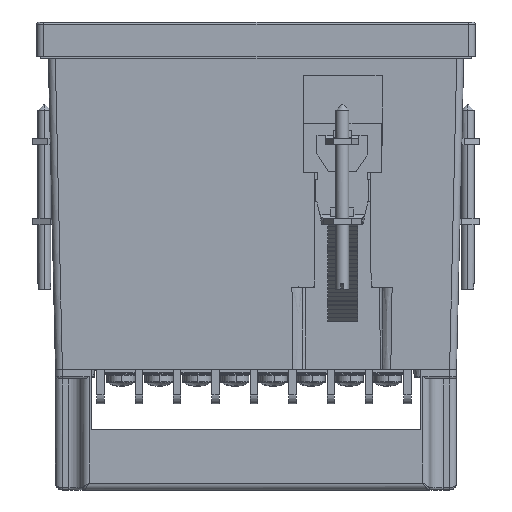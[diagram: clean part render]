
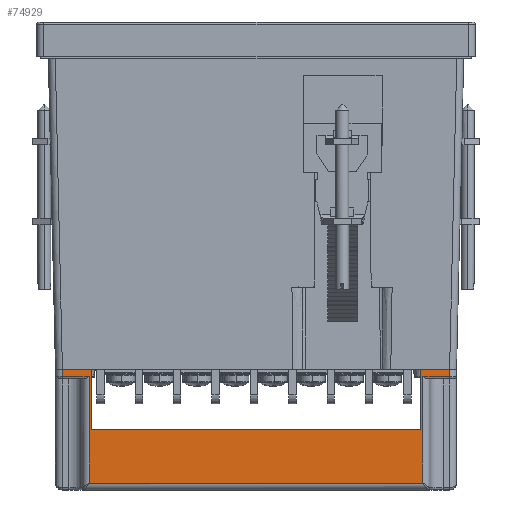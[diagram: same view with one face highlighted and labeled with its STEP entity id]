
A CAD part, front view. The second image highlights one B-rep face of the part: STEP entity #74929.
In plain terms, the highlighted planar face has unit normal (0, -1, 0).
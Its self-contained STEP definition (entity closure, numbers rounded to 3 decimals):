
#356 = DIRECTION ( 'NONE',  ( 0., -1., 0. ) ) ;
#2693 = ORIENTED_EDGE ( 'NONE', *, *, #27141, .F. ) ;
#3799 = EDGE_CURVE ( 'NONE', #26915, #15329, #100359, .T. ) ;
#4944 = ORIENTED_EDGE ( 'NONE', *, *, #7288, .F. ) ;
#6378 = CARTESIAN_POINT ( 'NONE',  ( 36.154, -43.45, -2.14 ) ) ;
#6875 = DIRECTION ( 'NONE',  ( 0., 0., 1. ) ) ;
#7288 = EDGE_CURVE ( 'NONE', #92286, #85175, #49611, .T. ) ;
#10125 = VECTOR ( 'NONE', #6875, 1000. ) ;
#11296 = CARTESIAN_POINT ( 'NONE',  ( 35.75, -43.45, 0. ) ) ;
#11634 = LINE ( 'NONE', #90732, #43741 ) ;
#12691 = VECTOR ( 'NONE', #93691, 1000. ) ;
#14238 = CARTESIAN_POINT ( 'NONE',  ( 41.95, -43.45, -1.64 ) ) ;
#15329 = VERTEX_POINT ( 'NONE', #53975 ) ;
#16138 = ORIENTED_EDGE ( 'NONE', *, *, #78682, .F. ) ;
#16290 = CARTESIAN_POINT ( 'NONE',  ( -43.45, -43.45, 0. ) ) ;
#16697 = ORIENTED_EDGE ( 'NONE', *, *, #26299, .T. ) ;
#16810 = ORIENTED_EDGE ( 'NONE', *, *, #3799, .T. ) ;
#18596 = ORIENTED_EDGE ( 'NONE', *, *, #20617, .T. ) ;
#19212 = CARTESIAN_POINT ( 'NONE',  ( -41.95, -43.45, 0. ) ) ;
#20617 = EDGE_CURVE ( 'NONE', #81267, #58175, #75486, .T. ) ;
#23367 = LINE ( 'NONE', #60904, #38679 ) ;
#23714 = EDGE_CURVE ( 'NONE', #86262, #85175, #23987, .T. ) ;
#23987 = LINE ( 'NONE', #39898, #73713 ) ;
#24598 = ORIENTED_EDGE ( 'NONE', *, *, #39895, .T. ) ;
#26299 = EDGE_CURVE ( 'NONE', #57249, #87852, #54929, .T. ) ;
#26915 = VERTEX_POINT ( 'NONE', #53021 ) ;
#27141 = EDGE_CURVE ( 'NONE', #60775, #92286, #32981, .T. ) ;
#27451 = CARTESIAN_POINT ( 'NONE',  ( -36.15, -43.45, -24.7 ) ) ;
#28069 = DIRECTION ( 'NONE',  ( 0., 0., -1. ) ) ;
#28871 = EDGE_CURVE ( 'NONE', #48829, #81267, #95350, .T. ) ;
#29239 = CARTESIAN_POINT ( 'NONE',  ( -43.45, -43.45, -26.2 ) ) ;
#29737 = DIRECTION ( 'NONE',  ( 0., 0., -1. ) ) ;
#31603 = LINE ( 'NONE', #32123, #86056 ) ;
#31714 = DIRECTION ( 'NONE',  ( 0., 0., 1. ) ) ;
#32123 = CARTESIAN_POINT ( 'NONE',  ( -43.45, -43.45, -1.64 ) ) ;
#32981 = LINE ( 'NONE', #48356, #33885 ) ;
#33481 = ORIENTED_EDGE ( 'NONE', *, *, #28871, .T. ) ;
#33881 = DIRECTION ( 'NONE',  ( -1., 0., 0. ) ) ;
#33885 = VECTOR ( 'NONE', #81202, 1000. ) ;
#34162 = CARTESIAN_POINT ( 'NONE',  ( -36.15, -43.45, -1.64 ) ) ;
#35547 = ORIENTED_EDGE ( 'NONE', *, *, #69372, .T. ) ;
#38277 = DIRECTION ( 'NONE',  ( 1., 0., 0. ) ) ;
#38679 = VECTOR ( 'NONE', #38277, 1000. ) ;
#39148 = CARTESIAN_POINT ( 'NONE',  ( 41.95, -43.45, 0. ) ) ;
#39847 = PLANE ( 'NONE',  #67738 ) ;
#39895 = EDGE_CURVE ( 'NONE', #15329, #86262, #31603, .T. ) ;
#39898 = CARTESIAN_POINT ( 'NONE',  ( 41.95, -43.45, -26.2 ) ) ;
#40366 = CARTESIAN_POINT ( 'NONE',  ( -43.45, -43.45, -1.64 ) ) ;
#43741 = VECTOR ( 'NONE', #28069, 1000. ) ;
#44618 = EDGE_CURVE ( 'NONE', #89437, #48829, #11634, .T. ) ;
#47512 = DIRECTION ( 'NONE',  ( 1., 0., 0. ) ) ;
#48356 = CARTESIAN_POINT ( 'NONE',  ( 35.75, -43.45, -13.02 ) ) ;
#48829 = VERTEX_POINT ( 'NONE', #76011 ) ;
#48901 = VECTOR ( 'NONE', #88138, 1000. ) ;
#49611 = LINE ( 'NONE', #16290, #52783 ) ;
#49791 = CARTESIAN_POINT ( 'NONE',  ( -35.75, -43.45, -13.02 ) ) ;
#52783 = VECTOR ( 'NONE', #71231, 1000. ) ;
#53021 = CARTESIAN_POINT ( 'NONE',  ( 36.154, -43.45, -24.7 ) ) ;
#53975 = CARTESIAN_POINT ( 'NONE',  ( 36.154, -43.45, -1.64 ) ) ;
#54929 = LINE ( 'NONE', #86255, #73180 ) ;
#57249 = VERTEX_POINT ( 'NONE', #49791 ) ;
#58175 = VERTEX_POINT ( 'NONE', #27451 ) ;
#58301 = DIRECTION ( 'NONE',  ( 0., 0., 1. ) ) ;
#58465 = EDGE_LOOP ( 'NONE', ( #16810, #24598, #93492, #4944, #2693, #61789, #16697, #16138, #98939, #33481, #18596, #35547 ) ) ;
#60775 = VERTEX_POINT ( 'NONE', #65177 ) ;
#60904 = CARTESIAN_POINT ( 'NONE',  ( -43.45, -43.45, 0. ) ) ;
#61789 = ORIENTED_EDGE ( 'NONE', *, *, #72468, .T. ) ;
#63625 = VECTOR ( 'NONE', #75983, 1000. ) ;
#65177 = CARTESIAN_POINT ( 'NONE',  ( 35.75, -43.45, -13.02 ) ) ;
#67738 = AXIS2_PLACEMENT_3D ( 'NONE', #29239, #356, #29737 ) ;
#69372 = EDGE_CURVE ( 'NONE', #58175, #26915, #77259, .T. ) ;
#69539 = CARTESIAN_POINT ( 'NONE',  ( -43.45, -43.45, -24.7 ) ) ;
#71231 = DIRECTION ( 'NONE',  ( 1., 0., 0. ) ) ;
#72468 = EDGE_CURVE ( 'NONE', #60775, #57249, #87324, .T. ) ;
#73180 = VECTOR ( 'NONE', #58301, 1000. ) ;
#73713 = VECTOR ( 'NONE', #31714, 1000. ) ;
#74929 = ADVANCED_FACE ( 'NONE', ( #86609 ), #39847, .T. ) ;
#75486 = LINE ( 'NONE', #82673, #63625 ) ;
#75983 = DIRECTION ( 'NONE',  ( 0., 0., -1. ) ) ;
#76011 = CARTESIAN_POINT ( 'NONE',  ( -41.95, -43.45, -1.64 ) ) ;
#77259 = LINE ( 'NONE', #69539, #12691 ) ;
#77348 = VECTOR ( 'NONE', #33881, 1000. ) ;
#78682 = EDGE_CURVE ( 'NONE', #89437, #87852, #23367, .T. ) ;
#81119 = CARTESIAN_POINT ( 'NONE',  ( -35.524, -43.45, -13.02 ) ) ;
#81202 = DIRECTION ( 'NONE',  ( 0., 0., 1. ) ) ;
#81267 = VERTEX_POINT ( 'NONE', #34162 ) ;
#82673 = CARTESIAN_POINT ( 'NONE',  ( -36.15, -43.45, -26.2 ) ) ;
#85175 = VERTEX_POINT ( 'NONE', #39148 ) ;
#86056 = VECTOR ( 'NONE', #47512, 1000. ) ;
#86255 = CARTESIAN_POINT ( 'NONE',  ( -35.75, -43.45, -13.02 ) ) ;
#86262 = VERTEX_POINT ( 'NONE', #14238 ) ;
#86609 = FACE_OUTER_BOUND ( 'NONE', #58465, .T. ) ;
#87324 = LINE ( 'NONE', #81119, #77348 ) ;
#87852 = VERTEX_POINT ( 'NONE', #100333 ) ;
#88138 = DIRECTION ( 'NONE',  ( 1., 0., 0. ) ) ;
#89437 = VERTEX_POINT ( 'NONE', #19212 ) ;
#90732 = CARTESIAN_POINT ( 'NONE',  ( -41.95, -43.45, -26.2 ) ) ;
#92286 = VERTEX_POINT ( 'NONE', #11296 ) ;
#93492 = ORIENTED_EDGE ( 'NONE', *, *, #23714, .T. ) ;
#93691 = DIRECTION ( 'NONE',  ( 1., 0., 0. ) ) ;
#95350 = LINE ( 'NONE', #40366, #48901 ) ;
#98939 = ORIENTED_EDGE ( 'NONE', *, *, #44618, .T. ) ;
#100333 = CARTESIAN_POINT ( 'NONE',  ( -35.75, -43.45, 0. ) ) ;
#100359 = LINE ( 'NONE', #6378, #10125 ) ;
